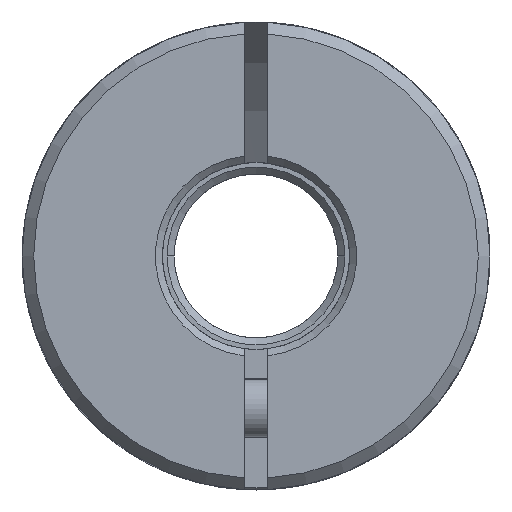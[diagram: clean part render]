
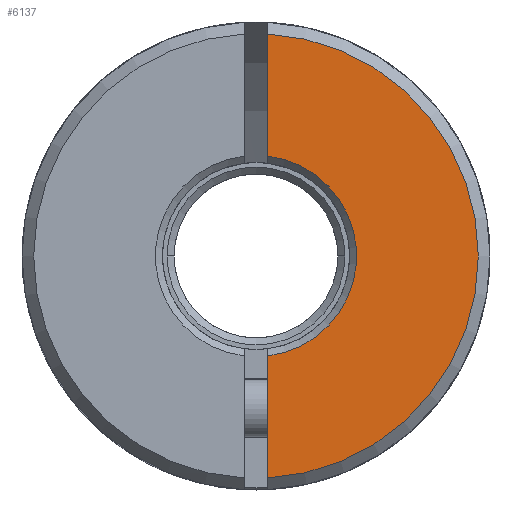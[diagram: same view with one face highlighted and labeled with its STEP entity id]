
A CAD part, front view. The second image highlights one B-rep face of the part: STEP entity #6137.
In plain terms, the highlighted planar face has unit normal (0, -1, 0).
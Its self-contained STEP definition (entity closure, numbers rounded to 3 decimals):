
#210 = VERTEX_POINT ( 'NONE', #4399 ) ;
#341 = VECTOR ( 'NONE', #1846, 1000. ) ;
#1003 = ORIENTED_EDGE ( 'NONE', *, *, #5438, .F. ) ;
#1345 = CARTESIAN_POINT ( 'NONE',  ( 0.5, -33., 4.271 ) ) ;
#1556 = DIRECTION ( 'NONE',  ( 0., 0., -1. ) ) ;
#1701 = VECTOR ( 'NONE', #8466, 1000. ) ;
#1846 = DIRECTION ( 'NONE',  ( 0., 0., 1. ) ) ;
#1857 = DIRECTION ( 'NONE',  ( 0., 0., -1. ) ) ;
#2245 = EDGE_CURVE ( 'NONE', #6452, #9998, #4278, .T. ) ;
#2662 = VERTEX_POINT ( 'NONE', #4823 ) ;
#2821 = CARTESIAN_POINT ( 'NONE',  ( 0.5, -33., -12.292 ) ) ;
#3129 = CARTESIAN_POINT ( 'NONE',  ( 50., -33., -12.292 ) ) ;
#4278 = CIRCLE ( 'NONE', #9486, 4.3 ) ;
#4399 = CARTESIAN_POINT ( 'NONE',  ( 0.5, -33., 9.487 ) ) ;
#4701 = LINE ( 'NONE', #2821, #1701 ) ;
#4763 = DIRECTION ( 'NONE',  ( 0., 0., -1. ) ) ;
#4823 = CARTESIAN_POINT ( 'NONE',  ( 0.5, -33., -9.487 ) ) ;
#4991 = EDGE_CURVE ( 'NONE', #2662, #210, #7590, .T. ) ;
#5084 = CARTESIAN_POINT ( 'NONE',  ( 0.5, -33., -12.292 ) ) ;
#5133 = DIRECTION ( 'NONE',  ( 0., -1., 0. ) ) ;
#5352 = EDGE_LOOP ( 'NONE', ( #1003, #9989, #5729, #6827 ) ) ;
#5438 = EDGE_CURVE ( 'NONE', #2662, #9998, #9167, .T. ) ;
#5729 = ORIENTED_EDGE ( 'NONE', *, *, #10014, .F. ) ;
#5764 = AXIS2_PLACEMENT_3D ( 'NONE', #3129, #6369, #1556 ) ;
#6137 = ADVANCED_FACE ( 'NONE', ( #8062 ), #9508, .F. ) ;
#6369 = DIRECTION ( 'NONE',  ( 0., 1., 0. ) ) ;
#6379 = CARTESIAN_POINT ( 'NONE',  ( 0., -33., 0. ) ) ;
#6452 = VERTEX_POINT ( 'NONE', #1345 ) ;
#6827 = ORIENTED_EDGE ( 'NONE', *, *, #2245, .T. ) ;
#6857 = AXIS2_PLACEMENT_3D ( 'NONE', #8344, #5133, #1857 ) ;
#6863 = CARTESIAN_POINT ( 'NONE',  ( 0.5, -33., -4.271 ) ) ;
#7590 = CIRCLE ( 'NONE', #6857, 9.5 ) ;
#8062 = FACE_OUTER_BOUND ( 'NONE', #5352, .T. ) ;
#8344 = CARTESIAN_POINT ( 'NONE',  ( 0., -33., 0. ) ) ;
#8466 = DIRECTION ( 'NONE',  ( 0., 0., 1. ) ) ;
#9167 = LINE ( 'NONE', #5084, #341 ) ;
#9486 = AXIS2_PLACEMENT_3D ( 'NONE', #6379, #10304, #4763 ) ;
#9508 = PLANE ( 'NONE',  #5764 ) ;
#9989 = ORIENTED_EDGE ( 'NONE', *, *, #4991, .T. ) ;
#9998 = VERTEX_POINT ( 'NONE', #6863 ) ;
#10014 = EDGE_CURVE ( 'NONE', #6452, #210, #4701, .T. ) ;
#10304 = DIRECTION ( 'NONE',  ( 0., 1., 0. ) ) ;
